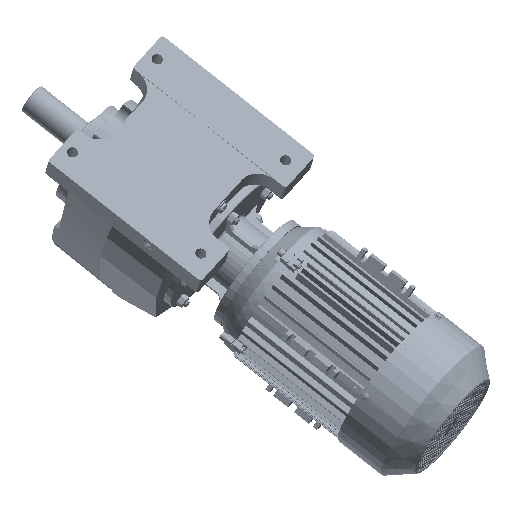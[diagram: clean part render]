
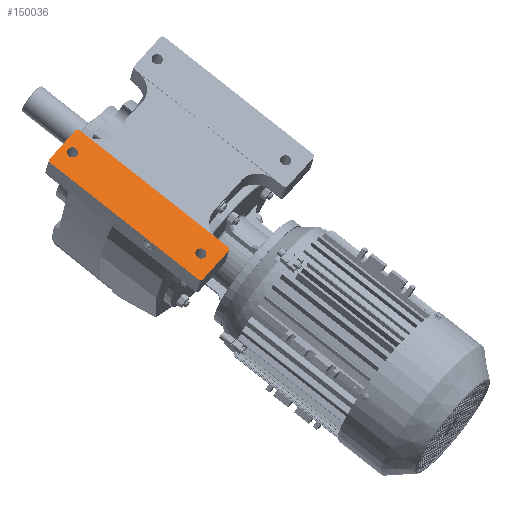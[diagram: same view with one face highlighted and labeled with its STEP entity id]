
A CAD part, front view. The second image highlights one B-rep face of the part: STEP entity #150036.
In plain terms, the highlighted planar face has unit normal (0.128, -0.904, 0.407) as drawn and (0, -1, 0) by its records, which use the part's own axes.
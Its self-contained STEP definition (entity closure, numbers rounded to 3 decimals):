
#3918 = AXIS2_PLACEMENT_3D ( 'NONE', #214636, #214638, #214646 ) ;
#4946 = AXIS2_PLACEMENT_3D ( 'NONE', #90463, #90465, #90445 ) ;
#4948 = AXIS2_PLACEMENT_3D ( 'NONE', #90378, #90400, #90399 ) ;
#5056 = AXIS2_PLACEMENT_3D ( 'NONE', #100834, #100949, #100862 ) ;
#5377 = AXIS2_PLACEMENT_3D ( 'NONE', #97431, #97332, #97445 ) ;
#5431 = AXIS2_PLACEMENT_3D ( 'NONE', #97219, #97295, #97262 ) ;
#6438 = AXIS2_PLACEMENT_3D ( 'NONE', #102784, #102759, #102840 ) ;
#8802 = ORIENTED_EDGE ( 'NONE', *, *, #27044, .T. ) ;
#8806 = ORIENTED_EDGE ( 'NONE', *, *, #149185, .T. ) ;
#22271 = ORIENTED_EDGE ( 'NONE', *, *, #146496, .F. ) ;
#22304 = ORIENTED_EDGE ( 'NONE', *, *, #149152, .T. ) ;
#22373 = ORIENTED_EDGE ( 'NONE', *, *, #148920, .T. ) ;
#22424 = ORIENTED_EDGE ( 'NONE', *, *, #26862, .T. ) ;
#22465 = ORIENTED_EDGE ( 'NONE', *, *, #149181, .F. ) ;
#22486 = ORIENTED_EDGE ( 'NONE', *, *, #148905, .T. ) ;
#22504 = ORIENTED_EDGE ( 'NONE', *, *, #148910, .T. ) ;
#22590 = ORIENTED_EDGE ( 'NONE', *, *, #149169, .F. ) ;
#22706 = ORIENTED_EDGE ( 'NONE', *, *, #149190, .F. ) ;
#22739 = ORIENTED_EDGE ( 'NONE', *, *, #149186, .F. ) ;
#22815 = ORIENTED_EDGE ( 'NONE', *, *, #149102, .F. ) ;
#26862 = EDGE_CURVE ( 'NONE', #197172, #197147, #107612, .T. ) ;
#27044 = EDGE_CURVE ( 'NONE', #197337, #197382, #107639, .T. ) ;
#85396 = VECTOR ( 'NONE', #90457, 1000. ) ;
#85417 = LINE ( 'NONE', #90464, #85396 ) ;
#85428 = CIRCLE ( 'NONE', #4946, 5. ) ;
#85846 = CIRCLE ( 'NONE', #5056, 5. ) ;
#85891 = LINE ( 'NONE', #97120, #85911 ) ;
#85898 = VECTOR ( 'NONE', #97192, 1000. ) ;
#85911 = VECTOR ( 'NONE', #97107, 1000. ) ;
#85949 = LINE ( 'NONE', #97175, #85898 ) ;
#85970 = VECTOR ( 'NONE', #97292, 1000. ) ;
#85974 = VECTOR ( 'NONE', #97449, 1000. ) ;
#86012 = LINE ( 'NONE', #97390, #85974 ) ;
#86032 = CIRCLE ( 'NONE', #5377, 8.75 ) ;
#86045 = CIRCLE ( 'NONE', #5431, 5. ) ;
#86053 = LINE ( 'NONE', #97272, #85970 ) ;
#86421 = FACE_BOUND ( 'NONE', #93328, .T. ) ;
#86424 = FACE_BOUND ( 'NONE', #93334, .T. ) ;
#86508 = FACE_OUTER_BOUND ( 'NONE', #93347, .T. ) ;
#87081 = CIRCLE ( 'NONE', #4948, 8.75 ) ;
#90378 = CARTESIAN_POINT ( 'NONE',  ( -107.5, -180., 142. ) ) ;
#90399 = DIRECTION ( 'NONE',  ( 0., 0., -1. ) ) ;
#90400 = DIRECTION ( 'NONE',  ( 0., 1., 0. ) ) ;
#90445 = DIRECTION ( 'NONE',  ( 1., 0., 0. ) ) ;
#90457 = DIRECTION ( 'NONE',  ( -1., 0., 0. ) ) ;
#90463 = CARTESIAN_POINT ( 'NONE',  ( -75., -180., 157. ) ) ;
#90464 = CARTESIAN_POINT ( 'NONE',  ( -70., -180., 162. ) ) ;
#90465 = DIRECTION ( 'NONE',  ( 0., -1., 0. ) ) ;
#93328 = EDGE_LOOP ( 'NONE', ( #22424, #8806 ) ) ;
#93334 = EDGE_LOOP ( 'NONE', ( #8802, #22486 ) ) ;
#93347 = EDGE_LOOP ( 'NONE', ( #22504, #22271, #22739, #22815, #22590, #22465, #22706, #22304, #22373 ) ) ;
#97107 = DIRECTION ( 'NONE',  ( 0., 0., 1. ) ) ;
#97120 = CARTESIAN_POINT ( 'NONE',  ( -70., -180., -148. ) ) ;
#97175 = CARTESIAN_POINT ( 'NONE',  ( -145., -180., -148. ) ) ;
#97192 = DIRECTION ( 'NONE',  ( -1., 0., 0. ) ) ;
#97219 = CARTESIAN_POINT ( 'NONE',  ( -75., -180., -143. ) ) ;
#97262 = DIRECTION ( 'NONE',  ( -1., 0., 0. ) ) ;
#97272 = CARTESIAN_POINT ( 'NONE',  ( -145., -180., -148. ) ) ;
#97292 = DIRECTION ( 'NONE',  ( 0., 0., 1. ) ) ;
#97295 = DIRECTION ( 'NONE',  ( 0., 1., 0. ) ) ;
#97332 = DIRECTION ( 'NONE',  ( 0., 1., 0. ) ) ;
#97390 = CARTESIAN_POINT ( 'NONE',  ( -70., -180., -148. ) ) ;
#97431 = CARTESIAN_POINT ( 'NONE',  ( -107.5, -180., -118. ) ) ;
#97445 = DIRECTION ( 'NONE',  ( 0., 0., -1. ) ) ;
#97449 = DIRECTION ( 'NONE',  ( 0., 0., -1. ) ) ;
#100834 = CARTESIAN_POINT ( 'NONE',  ( -140., -180., -143. ) ) ;
#100862 = DIRECTION ( 'NONE',  ( 0., 0., -1. ) ) ;
#100949 = DIRECTION ( 'NONE',  ( 0., 1., 0. ) ) ;
#102759 = DIRECTION ( 'NONE',  ( 0., -1., 0. ) ) ;
#102784 = CARTESIAN_POINT ( 'NONE',  ( -70., -180., -148. ) ) ;
#102840 = DIRECTION ( 'NONE',  ( 0., 0., -1. ) ) ;
#102871 = PLANE ( 'NONE',  #6438 ) ;
#107612 = CIRCLE ( 'NONE', #124163, 8.75 ) ;
#107639 = CIRCLE ( 'NONE', #124235, 8.75 ) ;
#109871 = DIRECTION ( 'NONE',  ( 0., 0., -1. ) ) ;
#109900 = CARTESIAN_POINT ( 'NONE',  ( -107.5, -180., -118. ) ) ;
#109902 = DIRECTION ( 'NONE',  ( 0., 1., 0. ) ) ;
#113585 = CARTESIAN_POINT ( 'NONE',  ( -107.5, -180., 142. ) ) ;
#113664 = DIRECTION ( 'NONE',  ( 0., 1., 0. ) ) ;
#113666 = DIRECTION ( 'NONE',  ( 0., 0., -1. ) ) ;
#124163 = AXIS2_PLACEMENT_3D ( 'NONE', #109900, #109902, #109871 ) ;
#124235 = AXIS2_PLACEMENT_3D ( 'NONE', #113585, #113664, #113666 ) ;
#126724 = CARTESIAN_POINT ( 'NONE',  ( -107.5, -180., -109.25 ) ) ;
#126839 = CARTESIAN_POINT ( 'NONE',  ( -107.5, -180., -126.75 ) ) ;
#127817 = CARTESIAN_POINT ( 'NONE',  ( -107.5, -180., 133.25 ) ) ;
#127939 = CARTESIAN_POINT ( 'NONE',  ( -107.5, -180., 150.75 ) ) ;
#146496 = EDGE_CURVE ( 'NONE', #157058, #156941, #211052, .T. ) ;
#148905 = EDGE_CURVE ( 'NONE', #197382, #197337, #87081, .T. ) ;
#148910 = EDGE_CURVE ( 'NONE', #156951, #156941, #85417, .T. ) ;
#148920 = EDGE_CURVE ( 'NONE', #156974, #156951, #85428, .T. ) ;
#149102 = EDGE_CURVE ( 'NONE', #157091, #157084, #85846, .T. ) ;
#149152 = EDGE_CURVE ( 'NONE', #157079, #156974, #85891, .T. ) ;
#149169 = EDGE_CURVE ( 'NONE', #157067, #157091, #85949, .T. ) ;
#149181 = EDGE_CURVE ( 'NONE', #157110, #157067, #86045, .T. ) ;
#149185 = EDGE_CURVE ( 'NONE', #197147, #197172, #86032, .T. ) ;
#149186 = EDGE_CURVE ( 'NONE', #157084, #157058, #86053, .T. ) ;
#149190 = EDGE_CURVE ( 'NONE', #157079, #157110, #86012, .T. ) ;
#149616 = CARTESIAN_POINT ( 'NONE',  ( -70., -180., 157. ) ) ;
#149651 = CARTESIAN_POINT ( 'NONE',  ( -145., -180., 157. ) ) ;
#149685 = CARTESIAN_POINT ( 'NONE',  ( -75., -180., -148. ) ) ;
#149722 = CARTESIAN_POINT ( 'NONE',  ( -145., -180., -143. ) ) ;
#149726 = CARTESIAN_POINT ( 'NONE',  ( -140., -180., -148. ) ) ;
#149793 = CARTESIAN_POINT ( 'NONE',  ( -70., -180., 24. ) ) ;
#149926 = CARTESIAN_POINT ( 'NONE',  ( -70., -180., -143. ) ) ;
#150036 = ADVANCED_FACE ( 'NONE', ( #86508, #86421, #86424 ), #102871, .T. ) ;
#152905 = CARTESIAN_POINT ( 'NONE',  ( -140., -180., 162. ) ) ;
#152915 = CARTESIAN_POINT ( 'NONE',  ( -75., -180., 162. ) ) ;
#156941 = VERTEX_POINT ( 'NONE', #152905 ) ;
#156951 = VERTEX_POINT ( 'NONE', #152915 ) ;
#156974 = VERTEX_POINT ( 'NONE', #149616 ) ;
#157058 = VERTEX_POINT ( 'NONE', #149651 ) ;
#157067 = VERTEX_POINT ( 'NONE', #149685 ) ;
#157079 = VERTEX_POINT ( 'NONE', #149793 ) ;
#157084 = VERTEX_POINT ( 'NONE', #149722 ) ;
#157091 = VERTEX_POINT ( 'NONE', #149726 ) ;
#157110 = VERTEX_POINT ( 'NONE', #149926 ) ;
#197147 = VERTEX_POINT ( 'NONE', #126724 ) ;
#197172 = VERTEX_POINT ( 'NONE', #126839 ) ;
#197337 = VERTEX_POINT ( 'NONE', #127817 ) ;
#197382 = VERTEX_POINT ( 'NONE', #127939 ) ;
#211052 = CIRCLE ( 'NONE', #3918, 5. ) ;
#214636 = CARTESIAN_POINT ( 'NONE',  ( -140., -180., 157. ) ) ;
#214638 = DIRECTION ( 'NONE',  ( 0., 1., 0. ) ) ;
#214646 = DIRECTION ( 'NONE',  ( 0., 0., 1. ) ) ;
